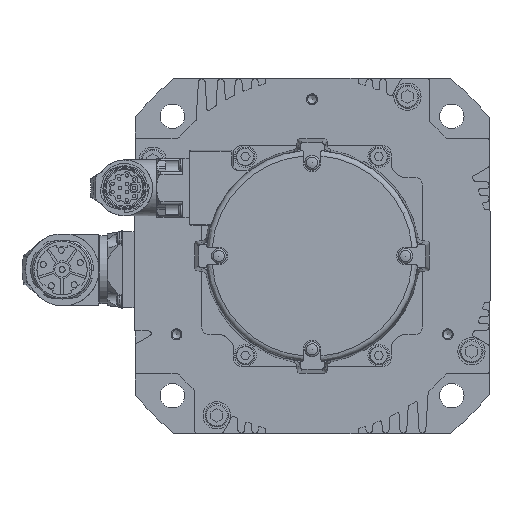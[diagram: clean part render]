
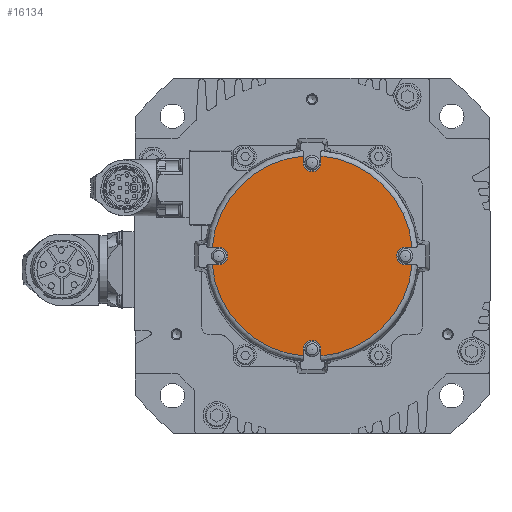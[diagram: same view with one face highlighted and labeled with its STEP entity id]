
A CAD part, left-side view. The second image highlights one B-rep face of the part: STEP entity #16134.
In plain terms, the highlighted planar face has unit normal (-1, 0, 0).
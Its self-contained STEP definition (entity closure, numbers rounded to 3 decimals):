
#712=LINE('',#24208,#2070);
#713=LINE('',#24213,#2071);
#714=LINE('',#24217,#2072);
#715=LINE('',#24221,#2073);
#716=LINE('',#24225,#2074);
#717=LINE('',#24229,#2075);
#718=LINE('',#24233,#2076);
#719=LINE('',#24237,#2077);
#2070=VECTOR('',#19063,1000.);
#2071=VECTOR('',#19066,1000.);
#2072=VECTOR('',#19069,1000.);
#2073=VECTOR('',#19072,1000.);
#2074=VECTOR('',#19075,1000.);
#2075=VECTOR('',#19078,1000.);
#2076=VECTOR('',#19081,1000.);
#2077=VECTOR('',#19084,1000.);
#3441=ORIENTED_EDGE('',*,*,#8314,.F.);
#3442=ORIENTED_EDGE('',*,*,#8315,.T.);
#3443=ORIENTED_EDGE('',*,*,#8316,.F.);
#3444=ORIENTED_EDGE('',*,*,#8317,.F.);
#3445=ORIENTED_EDGE('',*,*,#8318,.F.);
#3446=ORIENTED_EDGE('',*,*,#8319,.T.);
#3447=ORIENTED_EDGE('',*,*,#8320,.F.);
#3448=ORIENTED_EDGE('',*,*,#8321,.F.);
#3449=ORIENTED_EDGE('',*,*,#8322,.F.);
#3450=ORIENTED_EDGE('',*,*,#8323,.T.);
#3451=ORIENTED_EDGE('',*,*,#8324,.F.);
#3452=ORIENTED_EDGE('',*,*,#8325,.F.);
#3453=ORIENTED_EDGE('',*,*,#8326,.F.);
#3454=ORIENTED_EDGE('',*,*,#8327,.T.);
#3455=ORIENTED_EDGE('',*,*,#8328,.F.);
#3456=ORIENTED_EDGE('',*,*,#8329,.F.);
#8314=EDGE_CURVE('',#10750,#10751,#712,.T.);
#8315=EDGE_CURVE('',#10750,#10752,#12375,.T.);
#8316=EDGE_CURVE('',#10753,#10752,#713,.T.);
#8317=EDGE_CURVE('',#10754,#10753,#12376,.T.);
#8318=EDGE_CURVE('',#10755,#10754,#714,.T.);
#8319=EDGE_CURVE('',#10755,#10756,#12377,.T.);
#8320=EDGE_CURVE('',#10757,#10756,#715,.T.);
#8321=EDGE_CURVE('',#10758,#10757,#12378,.T.);
#8322=EDGE_CURVE('',#10759,#10758,#716,.T.);
#8323=EDGE_CURVE('',#10759,#10760,#12379,.T.);
#8324=EDGE_CURVE('',#10761,#10760,#717,.T.);
#8325=EDGE_CURVE('',#10762,#10761,#12380,.T.);
#8326=EDGE_CURVE('',#10763,#10762,#718,.T.);
#8327=EDGE_CURVE('',#10763,#10764,#12381,.T.);
#8328=EDGE_CURVE('',#10765,#10764,#719,.T.);
#8329=EDGE_CURVE('',#10751,#10765,#12382,.T.);
#10750=VERTEX_POINT('',#24209);
#10751=VERTEX_POINT('',#24210);
#10752=VERTEX_POINT('',#24212);
#10753=VERTEX_POINT('',#24214);
#10754=VERTEX_POINT('',#24216);
#10755=VERTEX_POINT('',#24218);
#10756=VERTEX_POINT('',#24220);
#10757=VERTEX_POINT('',#24222);
#10758=VERTEX_POINT('',#24224);
#10759=VERTEX_POINT('',#24226);
#10760=VERTEX_POINT('',#24228);
#10761=VERTEX_POINT('',#24230);
#10762=VERTEX_POINT('',#24232);
#10763=VERTEX_POINT('',#24234);
#10764=VERTEX_POINT('',#24236);
#10765=VERTEX_POINT('',#24238);
#12375=CIRCLE('',#17138,3.25);
#12376=CIRCLE('',#17139,36.85);
#12377=CIRCLE('',#17140,3.25);
#12378=CIRCLE('',#17141,36.85);
#12379=CIRCLE('',#17142,3.25);
#12380=CIRCLE('',#17143,36.85);
#12381=CIRCLE('',#17144,3.25);
#12382=CIRCLE('',#17145,36.85);
#13299=EDGE_LOOP('',(#3441,#3442,#3443,#3444,#3445,#3446,#3447,#3448,#3449,
#3450,#3451,#3452,#3453,#3454,#3455,#3456));
#14472=FACE_BOUND('',#13299,.T.);
#15642=PLANE('',#17137);
#16134=ADVANCED_FACE('',(#14472),#15642,.F.);
#17137=AXIS2_PLACEMENT_3D('',#24207,#19061,#19062);
#17138=AXIS2_PLACEMENT_3D('',#24211,#19064,#19065);
#17139=AXIS2_PLACEMENT_3D('',#24215,#19067,#19068);
#17140=AXIS2_PLACEMENT_3D('',#24219,#19070,#19071);
#17141=AXIS2_PLACEMENT_3D('',#24223,#19073,#19074);
#17142=AXIS2_PLACEMENT_3D('',#24227,#19076,#19077);
#17143=AXIS2_PLACEMENT_3D('',#24231,#19079,#19080);
#17144=AXIS2_PLACEMENT_3D('',#24235,#19082,#19083);
#17145=AXIS2_PLACEMENT_3D('',#24239,#19085,#19086);
#19061=DIRECTION('',(1.,0.,0.));
#19062=DIRECTION('',(0.,0.,-1.));
#19063=DIRECTION('',(0.,1.,0.));
#19064=DIRECTION('',(1.,0.,0.));
#19065=DIRECTION('',(0.,0.,-1.));
#19066=DIRECTION('',(0.,-1.,0.));
#19067=DIRECTION('',(1.,0.,0.));
#19068=DIRECTION('',(0.,0.,-1.));
#19069=DIRECTION('',(0.,0.,-1.));
#19070=DIRECTION('',(1.,0.,0.));
#19071=DIRECTION('',(0.,0.,-1.));
#19072=DIRECTION('',(0.,0.,1.));
#19073=DIRECTION('',(1.,0.,0.));
#19074=DIRECTION('',(0.,0.,-1.));
#19075=DIRECTION('',(0.,-1.,0.));
#19076=DIRECTION('',(1.,0.,0.));
#19077=DIRECTION('',(0.,0.,-1.));
#19078=DIRECTION('',(0.,1.,0.));
#19079=DIRECTION('',(1.,0.,0.));
#19080=DIRECTION('',(0.,0.,-1.));
#19081=DIRECTION('',(0.,0.,1.));
#19082=DIRECTION('',(1.,0.,0.));
#19083=DIRECTION('',(0.,0.,-1.));
#19084=DIRECTION('',(0.,0.,-1.));
#19085=DIRECTION('',(1.,0.,0.));
#19086=DIRECTION('',(0.,0.,-1.));
#24207=CARTESIAN_POINT('',(-177.,0.,0.));
#24208=CARTESIAN_POINT('',(-177.,34.25,3.25));
#24209=CARTESIAN_POINT('',(-177.,34.25,3.25));
#24210=CARTESIAN_POINT('',(-177.,36.706,3.25));
#24211=CARTESIAN_POINT('',(-177.,34.25,0.));
#24212=CARTESIAN_POINT('',(-177.,34.25,-3.25));
#24213=CARTESIAN_POINT('',(-177.,38.166,-3.25));
#24214=CARTESIAN_POINT('',(-177.,36.706,-3.25));
#24215=CARTESIAN_POINT('',(-177.,0.,0.));
#24216=CARTESIAN_POINT('',(-177.,3.25,-36.706));
#24217=CARTESIAN_POINT('',(-177.,3.25,-34.25));
#24218=CARTESIAN_POINT('',(-177.,3.25,-34.25));
#24219=CARTESIAN_POINT('',(-177.,0.,-34.25));
#24220=CARTESIAN_POINT('',(-177.,-3.25,-34.25));
#24221=CARTESIAN_POINT('',(-177.,-3.25,-38.166));
#24222=CARTESIAN_POINT('',(-177.,-3.25,-36.706));
#24223=CARTESIAN_POINT('',(-177.,0.,0.));
#24224=CARTESIAN_POINT('',(-177.,-36.706,-3.25));
#24225=CARTESIAN_POINT('',(-177.,-34.25,-3.25));
#24226=CARTESIAN_POINT('',(-177.,-34.25,-3.25));
#24227=CARTESIAN_POINT('',(-177.,-34.25,0.));
#24228=CARTESIAN_POINT('',(-177.,-34.25,3.25));
#24229=CARTESIAN_POINT('',(-177.,-38.166,3.25));
#24230=CARTESIAN_POINT('',(-177.,-36.706,3.25));
#24231=CARTESIAN_POINT('',(-177.,0.,0.));
#24232=CARTESIAN_POINT('',(-177.,-3.25,36.706));
#24233=CARTESIAN_POINT('',(-177.,-3.25,34.25));
#24234=CARTESIAN_POINT('',(-177.,-3.25,34.25));
#24235=CARTESIAN_POINT('',(-177.,0.,34.25));
#24236=CARTESIAN_POINT('',(-177.,3.25,34.25));
#24237=CARTESIAN_POINT('',(-177.,3.25,38.166));
#24238=CARTESIAN_POINT('',(-177.,3.25,36.706));
#24239=CARTESIAN_POINT('',(-177.,0.,0.));
